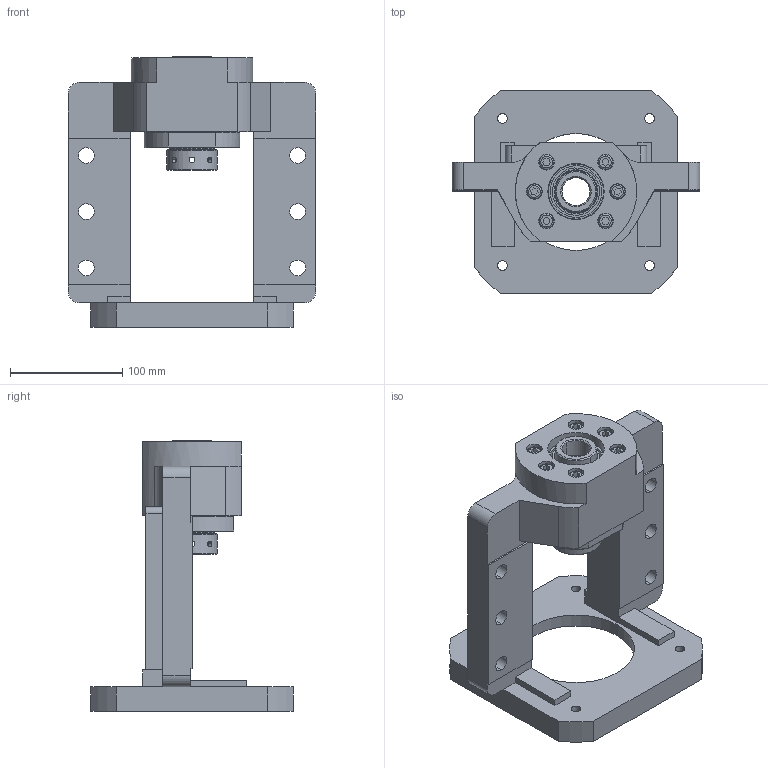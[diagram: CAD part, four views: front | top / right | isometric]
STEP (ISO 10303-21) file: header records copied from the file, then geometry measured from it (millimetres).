
FILE_DESCRIPTION (( 'STEP AP203' ), '1' );
FILE_NAME ('MBCK25L-J²Õ¦X¥ó.STEP', '2025-09-18T03:10:49', ( '' ), ( '' ), 'SwSTEP 2.0', 'SolidWorks 2018', '' );
FILE_SCHEMA (( 'CONFIG_CONTROL_DESIGN' ));
Length unit declared in the file: millimetre
Products named in the file (2): MBCK25L-J組合件
Bounding box: 220 x 180 x 241 mm (x, y, z)
Surface area: 226569.9 mm2 (no closed solid volume)
Topology: 0 solids, 33 shells, 338 faces, 943 edges, 631 vertices
Faces by surface type: plane 124, cylinder 122, cone 60, torus 26, bspline 6
Entity records: 20288 total; most frequent: CARTESIAN_POINT 11478, DIRECTION 1870, ORIENTED_EDGE 1633, EDGE_CURVE 935, AXIS2_PLACEMENT_3D 733, VERTEX_POINT 631, EDGE_LOOP 414, VECTOR 404
